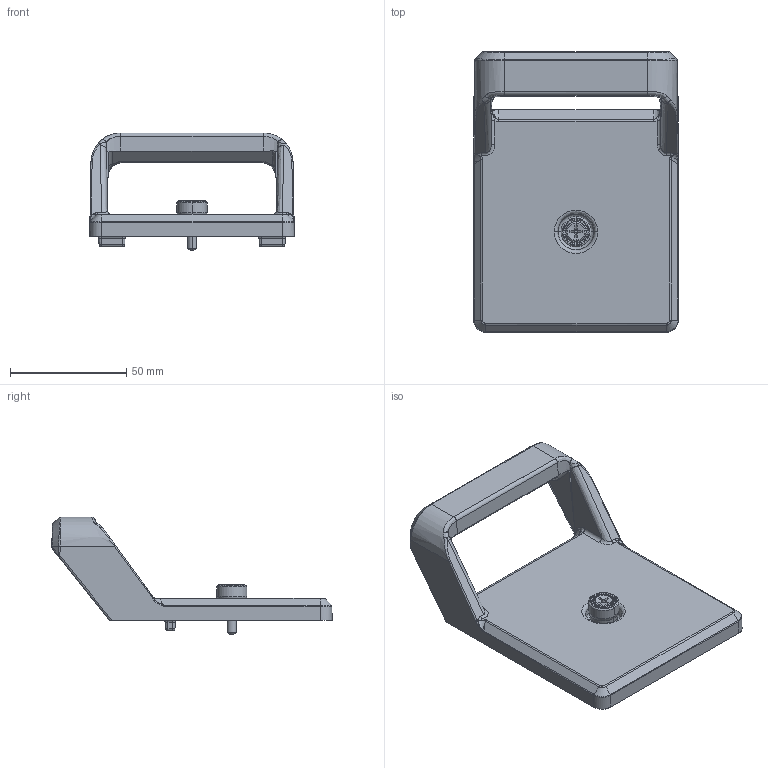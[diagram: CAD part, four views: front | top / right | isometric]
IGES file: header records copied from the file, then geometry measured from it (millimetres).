
Start section:  PTC IGES file: cu_crio_carry_handle.igs
Global section: file name: cu_crio_carry_handle.igs; native system: Creo Parametric by PTC Inc.; preprocessor: 2017480; author: dkendric; organization: Unknown; date: 20180608.135122; units: millimetre
Bounding box: 88.1 x 120.63 x 50.74 mm (x, y, z)
Surface area: 29164.1 mm2 (no closed solid volume)
Topology: 0 solids, 0 shells, 357 faces, 1664 edges, 1664 vertices
Faces by surface type: revolution 182, bspline 173, extrusion 2
